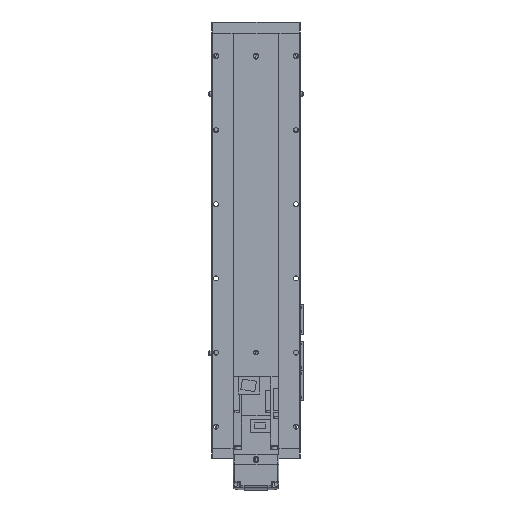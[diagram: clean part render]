
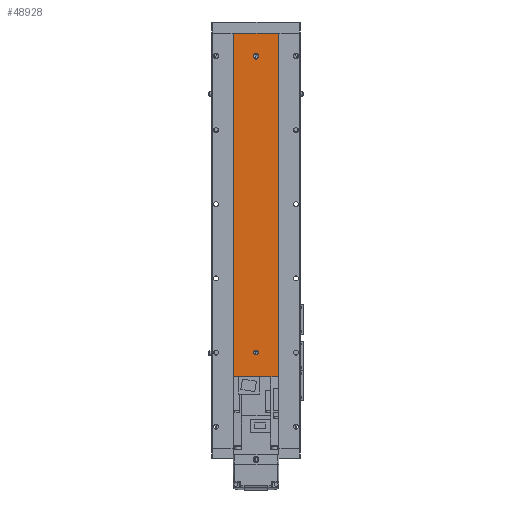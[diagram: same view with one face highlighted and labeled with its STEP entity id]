
A CAD part, front view. The second image highlights one B-rep face of the part: STEP entity #48928.
In plain terms, the highlighted planar face has unit normal (0, -1, 0).
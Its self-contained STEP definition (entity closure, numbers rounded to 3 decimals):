
#230 = CARTESIAN_POINT ( 'NONE',  ( 3., 1., 529. ) ) ;
#543 = DIRECTION ( 'NONE',  ( 0., 0., -1. ) ) ;
#2790 = CARTESIAN_POINT ( 'NONE',  ( 0., 1., 529. ) ) ;
#3264 = VECTOR ( 'NONE', #28687, 1000. ) ;
#3302 = EDGE_CURVE ( 'NONE', #51639, #36897, #15446, .T. ) ;
#4073 = CARTESIAN_POINT ( 'NONE',  ( -30., 1., 0. ) ) ;
#4121 = FACE_BOUND ( 'NONE', #43426, .T. ) ;
#4564 = DIRECTION ( 'NONE',  ( 0., 0., 1. ) ) ;
#5024 = CARTESIAN_POINT ( 'NONE',  ( 0., 1., 133. ) ) ;
#5150 = CARTESIAN_POINT ( 'NONE',  ( 30., 1., 561. ) ) ;
#5350 = DIRECTION ( 'NONE',  ( 0., -1., 0. ) ) ;
#5377 = EDGE_CURVE ( 'NONE', #49795, #46472, #38313, .T. ) ;
#5561 = FACE_BOUND ( 'NONE', #21084, .T. ) ;
#5895 = CIRCLE ( 'NONE', #16782, 3. ) ;
#7086 = EDGE_CURVE ( 'NONE', #21669, #60817, #19464, .T. ) ;
#7302 = CIRCLE ( 'NONE', #8146, 3. ) ;
#7404 = AXIS2_PLACEMENT_3D ( 'NONE', #60701, #22623, #46674 ) ;
#7557 = CARTESIAN_POINT ( 'NONE',  ( 0., 1., 30. ) ) ;
#8146 = AXIS2_PLACEMENT_3D ( 'NONE', #45479, #30809, #16837 ) ;
#10126 = CARTESIAN_POINT ( 'NONE',  ( -3., 1., 531. ) ) ;
#10192 = DIRECTION ( 'NONE',  ( 0., 0., -1. ) ) ;
#10193 = ORIENTED_EDGE ( 'NONE', *, *, #21109, .F. ) ;
#12555 = EDGE_CURVE ( 'NONE', #36897, #55571, #42742, .T. ) ;
#12596 = ORIENTED_EDGE ( 'NONE', *, *, #56926, .F. ) ;
#12613 = VECTOR ( 'NONE', #35782, 1000. ) ;
#14355 = VECTOR ( 'NONE', #40601, 1000. ) ;
#15446 = LINE ( 'NONE', #57272, #49093 ) ;
#16782 = AXIS2_PLACEMENT_3D ( 'NONE', #2790, #40602, #60293 ) ;
#16837 = DIRECTION ( 'NONE',  ( 0., 0., -1. ) ) ;
#17466 = LINE ( 'NONE', #23054, #3264 ) ;
#18412 = EDGE_CURVE ( 'NONE', #51524, #38173, #55692, .T. ) ;
#19464 = CIRCLE ( 'NONE', #52418, 3. ) ;
#19823 = FACE_BOUND ( 'NONE', #39809, .T. ) ;
#19923 = ORIENTED_EDGE ( 'NONE', *, *, #59390, .T. ) ;
#20168 = CARTESIAN_POINT ( 'NONE',  ( -30., 1., 561. ) ) ;
#20496 = CARTESIAN_POINT ( 'NONE',  ( -30., 1., 0. ) ) ;
#20985 = DIRECTION ( 'NONE',  ( 0., 1., 0. ) ) ;
#21084 = EDGE_LOOP ( 'NONE', ( #29279, #52807 ) ) ;
#21109 = EDGE_CURVE ( 'NONE', #56941, #22082, #17466, .T. ) ;
#21669 = VERTEX_POINT ( 'NONE', #5024 ) ;
#22082 = VERTEX_POINT ( 'NONE', #61407 ) ;
#22623 = DIRECTION ( 'NONE',  ( 0., -1., 0. ) ) ;
#23054 = CARTESIAN_POINT ( 'NONE',  ( -3., 1., 529. ) ) ;
#23431 = ORIENTED_EDGE ( 'NONE', *, *, #29896, .T. ) ;
#24540 = CARTESIAN_POINT ( 'NONE',  ( 0., 1., 130. ) ) ;
#24949 = VECTOR ( 'NONE', #53929, 1000. ) ;
#25388 = ORIENTED_EDGE ( 'NONE', *, *, #37250, .F. ) ;
#25757 = ORIENTED_EDGE ( 'NONE', *, *, #57059, .F. ) ;
#27936 = CARTESIAN_POINT ( 'NONE',  ( 3., 1., 531. ) ) ;
#28512 = CARTESIAN_POINT ( 'NONE',  ( 0., 1., 526. ) ) ;
#28687 = DIRECTION ( 'NONE',  ( 0., 0., -1. ) ) ;
#29279 = ORIENTED_EDGE ( 'NONE', *, *, #45921, .F. ) ;
#29896 = EDGE_CURVE ( 'NONE', #41646, #55571, #60147, .T. ) ;
#30809 = DIRECTION ( 'NONE',  ( 0., -1., 0. ) ) ;
#33237 = FACE_OUTER_BOUND ( 'NONE', #58826, .T. ) ;
#34768 = DIRECTION ( 'NONE',  ( 0., 0., 1. ) ) ;
#35782 = DIRECTION ( 'NONE',  ( 0., 0., -1. ) ) ;
#36154 = DIRECTION ( 'NONE',  ( 0., 0., -1. ) ) ;
#36386 = CARTESIAN_POINT ( 'NONE',  ( 30., 1., 561. ) ) ;
#36897 = VERTEX_POINT ( 'NONE', #5150 ) ;
#37250 = EDGE_CURVE ( 'NONE', #41066, #49795, #45473, .T. ) ;
#38173 = VERTEX_POINT ( 'NONE', #51846 ) ;
#38313 = LINE ( 'NONE', #47811, #42815 ) ;
#38617 = CIRCLE ( 'NONE', #50192, 3. ) ;
#39352 = ORIENTED_EDGE ( 'NONE', *, *, #12555, .F. ) ;
#39809 = EDGE_LOOP ( 'NONE', ( #12596, #58914 ) ) ;
#40440 = CARTESIAN_POINT ( 'NONE',  ( -30., 1., 561. ) ) ;
#40601 = DIRECTION ( 'NONE',  ( 0., 0., -1. ) ) ;
#40602 = DIRECTION ( 'NONE',  ( 0., -1., 0. ) ) ;
#40795 = CARTESIAN_POINT ( 'NONE',  ( -30., 1., 561. ) ) ;
#41066 = VERTEX_POINT ( 'NONE', #28512 ) ;
#41204 = AXIS2_PLACEMENT_3D ( 'NONE', #24540, #5350, #543 ) ;
#41457 = ORIENTED_EDGE ( 'NONE', *, *, #5377, .F. ) ;
#41646 = VERTEX_POINT ( 'NONE', #4073 ) ;
#42742 = LINE ( 'NONE', #36386, #14355 ) ;
#42815 = VECTOR ( 'NONE', #4564, 1000. ) ;
#43306 = LINE ( 'NONE', #40795, #12613 ) ;
#43418 = DIRECTION ( 'NONE',  ( 0., -1., 0. ) ) ;
#43426 = EDGE_LOOP ( 'NONE', ( #41457, #25388, #25757, #10193, #51683 ) ) ;
#43937 = AXIS2_PLACEMENT_3D ( 'NONE', #7557, #61067, #36154 ) ;
#44252 = DIRECTION ( 'NONE',  ( 0., 0., -1. ) ) ;
#45473 = CIRCLE ( 'NONE', #7404, 3. ) ;
#45479 = CARTESIAN_POINT ( 'NONE',  ( 0., 1., 30. ) ) ;
#45921 = EDGE_CURVE ( 'NONE', #38173, #51524, #7302, .T. ) ;
#46440 = CARTESIAN_POINT ( 'NONE',  ( 30., 1., 0. ) ) ;
#46472 = VERTEX_POINT ( 'NONE', #27936 ) ;
#46674 = DIRECTION ( 'NONE',  ( 0., 0., -1. ) ) ;
#47811 = CARTESIAN_POINT ( 'NONE',  ( 3., 1., 529. ) ) ;
#48414 = CARTESIAN_POINT ( 'NONE',  ( 0., 1., 130. ) ) ;
#48836 = CARTESIAN_POINT ( 'NONE',  ( 0., 1., 33. ) ) ;
#48928 = ADVANCED_FACE ( 'NONE', ( #4121, #19823, #5561, #33237 ), #53580, .F. ) ;
#49093 = VECTOR ( 'NONE', #57487, 1000. ) ;
#49614 = CARTESIAN_POINT ( 'NONE',  ( 0., 1., 127. ) ) ;
#49795 = VERTEX_POINT ( 'NONE', #230 ) ;
#50192 = AXIS2_PLACEMENT_3D ( 'NONE', #53653, #43418, #10192 ) ;
#51524 = VERTEX_POINT ( 'NONE', #48836 ) ;
#51639 = VERTEX_POINT ( 'NONE', #40440 ) ;
#51683 = ORIENTED_EDGE ( 'NONE', *, *, #61043, .F. ) ;
#51846 = CARTESIAN_POINT ( 'NONE',  ( 0., 1., 27. ) ) ;
#52418 = AXIS2_PLACEMENT_3D ( 'NONE', #48414, #53412, #44252 ) ;
#52807 = ORIENTED_EDGE ( 'NONE', *, *, #18412, .F. ) ;
#53412 = DIRECTION ( 'NONE',  ( 0., -1., 0. ) ) ;
#53580 = PLANE ( 'NONE',  #57707 ) ;
#53653 = CARTESIAN_POINT ( 'NONE',  ( 0., 1., 531. ) ) ;
#53929 = DIRECTION ( 'NONE',  ( 1., 0., 0. ) ) ;
#55571 = VERTEX_POINT ( 'NONE', #46440 ) ;
#55692 = CIRCLE ( 'NONE', #43937, 3. ) ;
#56926 = EDGE_CURVE ( 'NONE', #60817, #21669, #58257, .T. ) ;
#56941 = VERTEX_POINT ( 'NONE', #10126 ) ;
#57059 = EDGE_CURVE ( 'NONE', #22082, #41066, #5895, .T. ) ;
#57272 = CARTESIAN_POINT ( 'NONE',  ( -30., 1., 561. ) ) ;
#57487 = DIRECTION ( 'NONE',  ( 1., 0., 0. ) ) ;
#57707 = AXIS2_PLACEMENT_3D ( 'NONE', #20168, #20985, #34768 ) ;
#58257 = CIRCLE ( 'NONE', #41204, 3. ) ;
#58826 = EDGE_LOOP ( 'NONE', ( #23431, #39352, #60276, #19923 ) ) ;
#58914 = ORIENTED_EDGE ( 'NONE', *, *, #7086, .F. ) ;
#59390 = EDGE_CURVE ( 'NONE', #51639, #41646, #43306, .T. ) ;
#60147 = LINE ( 'NONE', #20496, #24949 ) ;
#60276 = ORIENTED_EDGE ( 'NONE', *, *, #3302, .F. ) ;
#60293 = DIRECTION ( 'NONE',  ( 0., 0., -1. ) ) ;
#60701 = CARTESIAN_POINT ( 'NONE',  ( 0., 1., 529. ) ) ;
#60817 = VERTEX_POINT ( 'NONE', #49614 ) ;
#61043 = EDGE_CURVE ( 'NONE', #46472, #56941, #38617, .T. ) ;
#61067 = DIRECTION ( 'NONE',  ( 0., -1., 0. ) ) ;
#61407 = CARTESIAN_POINT ( 'NONE',  ( -3., 1., 529. ) ) ;
